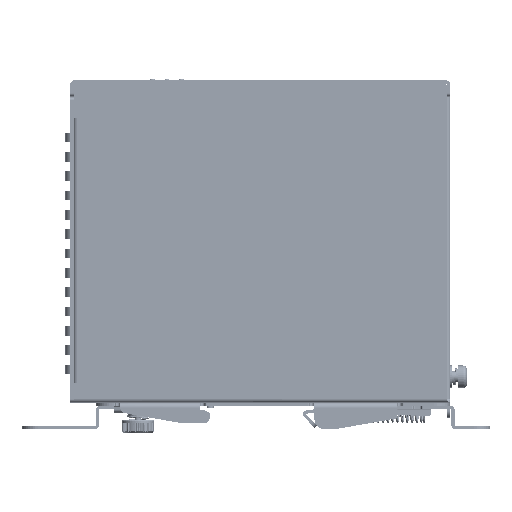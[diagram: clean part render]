
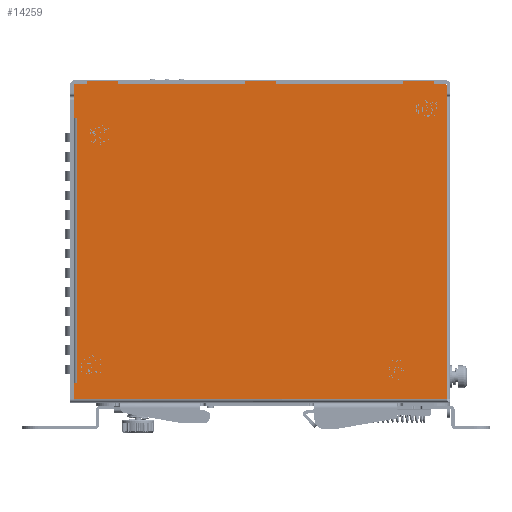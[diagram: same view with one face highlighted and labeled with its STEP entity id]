
A CAD part, left-side view. The second image highlights one B-rep face of the part: STEP entity #14259.
In plain terms, the highlighted planar face has unit normal (-1, 0, 0).
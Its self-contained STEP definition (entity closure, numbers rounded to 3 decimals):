
#88=DIRECTION('',(0.,-1.,0.));
#89=VECTOR('',#88,39.4);
#90=CARTESIAN_POINT('',(-1.,44.2,0.));
#91=LINE('',#90,#89);
#92=DIRECTION('',(0.,0.,-1.));
#93=VECTOR('',#92,0.8);
#94=CARTESIAN_POINT('',(-1.,4.8,0.8));
#95=LINE('',#94,#93);
#96=DIRECTION('',(0.,1.,0.));
#97=VECTOR('',#96,9.6);
#98=CARTESIAN_POINT('',(-1.,-4.8,0.8));
#99=LINE('',#98,#97);
#100=DIRECTION('',(0.,0.,1.));
#101=VECTOR('',#100,0.8);
#102=CARTESIAN_POINT('',(-1.,-4.8,0.));
#103=LINE('',#102,#101);
#104=DIRECTION('',(0.,-1.,0.));
#105=VECTOR('',#104,39.4);
#106=CARTESIAN_POINT('',(-1.,-4.8,0.));
#107=LINE('',#106,#105);
#108=DIRECTION('',(0.,0.,-1.));
#109=VECTOR('',#108,0.8);
#110=CARTESIAN_POINT('',(-1.,-44.2,0.8));
#111=LINE('',#110,#109);
#112=DIRECTION('',(0.,1.,0.));
#113=VECTOR('',#112,9.6);
#114=CARTESIAN_POINT('',(-1.,-53.8,0.8));
#115=LINE('',#114,#113);
#116=DIRECTION('',(0.,0.,1.));
#117=VECTOR('',#116,0.8);
#118=CARTESIAN_POINT('',(-1.,-53.8,0.));
#119=LINE('',#118,#117);
#120=DIRECTION('',(0.,-1.,0.));
#121=VECTOR('',#120,3.5);
#122=CARTESIAN_POINT('',(-1.,-53.8,0.));
#123=LINE('',#122,#121);
#124=CARTESIAN_POINT('',(-1.,-57.3,-0.5));
#125=DIRECTION('',(-1.,0.,0.));
#126=DIRECTION('',(0.,-1.,0.));
#127=AXIS2_PLACEMENT_3D('',#124,#125,#126);
#129=DIRECTION('',(0.,0.,-1.));
#130=VECTOR('',#129,3.7);
#131=CARTESIAN_POINT('',(-1.,-57.8,-0.5));
#132=LINE('',#131,#130);
#133=DIRECTION('',(0.,1.,0.));
#134=VECTOR('',#133,1.2);
#135=CARTESIAN_POINT('',(-1.,56.8,-92.8));
#136=LINE('',#135,#134);
#137=DIRECTION('',(0.,1.,0.));
#138=VECTOR('',#137,1.);
#139=CARTESIAN_POINT('',(-1.,56.8,-10.7));
#140=LINE('',#139,#138);
#141=DIRECTION('',(0.,0.,1.));
#142=VECTOR('',#141,6.5);
#143=CARTESIAN_POINT('',(-1.,57.8,-10.7));
#144=LINE('',#143,#142);
#145=DIRECTION('',(0.,0.,-1.));
#146=VECTOR('',#145,3.7);
#147=CARTESIAN_POINT('',(-1.,57.8,-0.5));
#148=LINE('',#147,#146);
#149=CARTESIAN_POINT('',(-1.,57.3,-0.5));
#150=DIRECTION('',(-1.,0.,0.));
#151=DIRECTION('',(0.,0.,1.));
#152=AXIS2_PLACEMENT_3D('',#149,#150,#151);
#154=DIRECTION('',(0.,-1.,0.));
#155=VECTOR('',#154,3.5);
#156=CARTESIAN_POINT('',(-1.,57.3,0.));
#157=LINE('',#156,#155);
#158=DIRECTION('',(0.,0.,-1.));
#159=VECTOR('',#158,0.8);
#160=CARTESIAN_POINT('',(-1.,53.8,0.8));
#161=LINE('',#160,#159);
#162=DIRECTION('',(0.,1.,0.));
#163=VECTOR('',#162,9.6);
#164=CARTESIAN_POINT('',(-1.,44.2,0.8));
#165=LINE('',#164,#163);
#166=DIRECTION('',(0.,0.,1.));
#167=VECTOR('',#166,0.8);
#168=CARTESIAN_POINT('',(-1.,44.2,0.));
#169=LINE('',#168,#167);
#219=DIRECTION('',(0.,0.,1.));
#220=VECTOR('',#219,82.1);
#221=CARTESIAN_POINT('',(-1.,56.8,-92.8));
#222=LINE('',#221,#220);
#464=DIRECTION('',(0.,0.,-1.));
#465=VECTOR('',#464,5.);
#466=CARTESIAN_POINT('',(-1.,58.,-92.8));
#467=LINE('',#466,#465);
#502=DIRECTION('',(0.,1.,0.));
#503=VECTOR('',#502,115.8);
#504=CARTESIAN_POINT('',(-1.,-57.8,-97.8));
#505=LINE('',#504,#503);
#9818=DIRECTION('',(0.,0.,-1.));
#9819=VECTOR('',#9818,93.6);
#9820=CARTESIAN_POINT('',(-1.,-57.8,-4.2));
#9821=LINE('',#9820,#9819);
#10718=CARTESIAN_POINT('',(-1.,58.,-97.8));
#10720=VERTEX_POINT('',#10718);
#10721=CARTESIAN_POINT('',(-1.,-57.8,-97.8));
#10722=VERTEX_POINT('',#10721);
#10737=CARTESIAN_POINT('',(-1.,-57.8,-4.2));
#10738=VERTEX_POINT('',#10737);
#10761=CARTESIAN_POINT('',(-1.,56.8,-92.8));
#10762=CARTESIAN_POINT('',(-1.,58.,-92.8));
#10763=VERTEX_POINT('',#10761);
#10764=VERTEX_POINT('',#10762);
#10769=CARTESIAN_POINT('',(-1.,56.8,-10.7));
#10770=VERTEX_POINT('',#10769);
#10781=CARTESIAN_POINT('',(-1.,57.3,0.));
#10782=VERTEX_POINT('',#10781);
#10783=CARTESIAN_POINT('',(-1.,57.8,-0.5));
#10784=VERTEX_POINT('',#10783);
#10789=CARTESIAN_POINT('',(-1.,-57.8,-0.5));
#10790=VERTEX_POINT('',#10789);
#10791=CARTESIAN_POINT('',(-1.,-57.3,0.));
#10792=VERTEX_POINT('',#10791);
#11117=CARTESIAN_POINT('',(-1.,57.8,-10.7));
#11118=CARTESIAN_POINT('',(-1.,57.8,-4.2));
#11119=VERTEX_POINT('',#11117);
#11120=VERTEX_POINT('',#11118);
#11406=CARTESIAN_POINT('',(-1.,44.2,0.));
#11407=CARTESIAN_POINT('',(-1.,44.2,0.8));
#11408=VERTEX_POINT('',#11406);
#11409=VERTEX_POINT('',#11407);
#11410=CARTESIAN_POINT('',(-1.,53.8,0.8));
#11411=VERTEX_POINT('',#11410);
#11412=CARTESIAN_POINT('',(-1.,53.8,0.));
#11413=VERTEX_POINT('',#11412);
#11422=CARTESIAN_POINT('',(-1.,-53.8,0.));
#11423=CARTESIAN_POINT('',(-1.,-53.8,0.8));
#11424=VERTEX_POINT('',#11422);
#11425=VERTEX_POINT('',#11423);
#11426=CARTESIAN_POINT('',(-1.,-44.2,0.8));
#11427=VERTEX_POINT('',#11426);
#11428=CARTESIAN_POINT('',(-1.,-44.2,0.));
#11429=VERTEX_POINT('',#11428);
#11438=CARTESIAN_POINT('',(-1.,-4.8,0.));
#11439=CARTESIAN_POINT('',(-1.,-4.8,0.8));
#11440=VERTEX_POINT('',#11438);
#11441=VERTEX_POINT('',#11439);
#11442=CARTESIAN_POINT('',(-1.,4.8,0.8));
#11443=VERTEX_POINT('',#11442);
#11444=CARTESIAN_POINT('',(-1.,4.8,0.));
#11445=VERTEX_POINT('',#11444);
#14205=CARTESIAN_POINT('',(-1.,0.,0.));
#14206=DIRECTION('',(1.,0.,0.));
#14207=DIRECTION('',(0.,-1.,0.));
#14208=AXIS2_PLACEMENT_3D('',#14205,#14206,#14207);
#14209=PLANE('',#14208);
#14211=ORIENTED_EDGE('',*,*,#14210,.T.);
#14213=ORIENTED_EDGE('',*,*,#14212,.F.);
#14215=ORIENTED_EDGE('',*,*,#14214,.F.);
#14217=ORIENTED_EDGE('',*,*,#14216,.F.);
#14218=ORIENTED_EDGE('',*,*,#14195,.T.);
#14220=ORIENTED_EDGE('',*,*,#14219,.F.);
#14222=ORIENTED_EDGE('',*,*,#14221,.F.);
#14224=ORIENTED_EDGE('',*,*,#14223,.F.);
#14226=ORIENTED_EDGE('',*,*,#14225,.T.);
#14228=ORIENTED_EDGE('',*,*,#14227,.F.);
#14230=ORIENTED_EDGE('',*,*,#14229,.T.);
#14232=ORIENTED_EDGE('',*,*,#14231,.T.);
#14234=ORIENTED_EDGE('',*,*,#14233,.T.);
#14236=ORIENTED_EDGE('',*,*,#14235,.F.);
#14238=ORIENTED_EDGE('',*,*,#14237,.F.);
#14240=ORIENTED_EDGE('',*,*,#14239,.T.);
#14242=ORIENTED_EDGE('',*,*,#14241,.T.);
#14244=ORIENTED_EDGE('',*,*,#14243,.T.);
#14246=ORIENTED_EDGE('',*,*,#14245,.F.);
#14248=ORIENTED_EDGE('',*,*,#14247,.F.);
#14250=ORIENTED_EDGE('',*,*,#14249,.T.);
#14252=ORIENTED_EDGE('',*,*,#14251,.F.);
#14254=ORIENTED_EDGE('',*,*,#14253,.F.);
#14256=ORIENTED_EDGE('',*,*,#14255,.F.);
#14257=EDGE_LOOP('',(#14211,#14213,#14215,#14217,#14218,#14220,#14222,#14224,
#14226,#14228,#14230,#14232,#14234,#14236,#14238,#14240,#14242,#14244,#14246,
#14248,#14250,#14252,#14254,#14256));
#14258=FACE_OUTER_BOUND('',#14257,.F.);
#128=CIRCLE('',#127,0.5);
#153=CIRCLE('',#152,0.5);
#14195=EDGE_CURVE('',#11440,#11429,#107,.T.);
#14210=EDGE_CURVE('',#11408,#11445,#91,.T.);
#14212=EDGE_CURVE('',#11443,#11445,#95,.T.);
#14214=EDGE_CURVE('',#11441,#11443,#99,.T.);
#14216=EDGE_CURVE('',#11440,#11441,#103,.T.);
#14219=EDGE_CURVE('',#11427,#11429,#111,.T.);
#14221=EDGE_CURVE('',#11425,#11427,#115,.T.);
#14223=EDGE_CURVE('',#11424,#11425,#119,.T.);
#14225=EDGE_CURVE('',#11424,#10792,#123,.T.);
#14227=EDGE_CURVE('',#10790,#10792,#128,.T.);
#14229=EDGE_CURVE('',#10790,#10738,#132,.T.);
#14231=EDGE_CURVE('',#10738,#10722,#9821,.T.);
#14233=EDGE_CURVE('',#10722,#10720,#505,.T.);
#14235=EDGE_CURVE('',#10764,#10720,#467,.T.);
#14237=EDGE_CURVE('',#10763,#10764,#136,.T.);
#14239=EDGE_CURVE('',#10763,#10770,#222,.T.);
#14241=EDGE_CURVE('',#10770,#11119,#140,.T.);
#14243=EDGE_CURVE('',#11119,#11120,#144,.T.);
#14245=EDGE_CURVE('',#10784,#11120,#148,.T.);
#14247=EDGE_CURVE('',#10782,#10784,#153,.T.);
#14249=EDGE_CURVE('',#10782,#11413,#157,.T.);
#14251=EDGE_CURVE('',#11411,#11413,#161,.T.);
#14253=EDGE_CURVE('',#11409,#11411,#165,.T.);
#14255=EDGE_CURVE('',#11408,#11409,#169,.T.);
#14259=ADVANCED_FACE('',(#14258),#14209,.F.);
